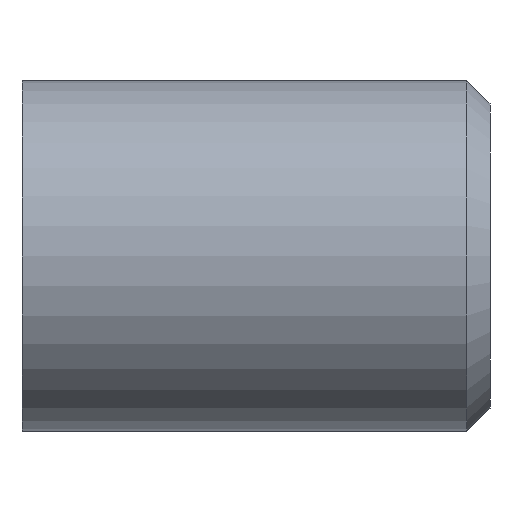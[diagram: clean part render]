
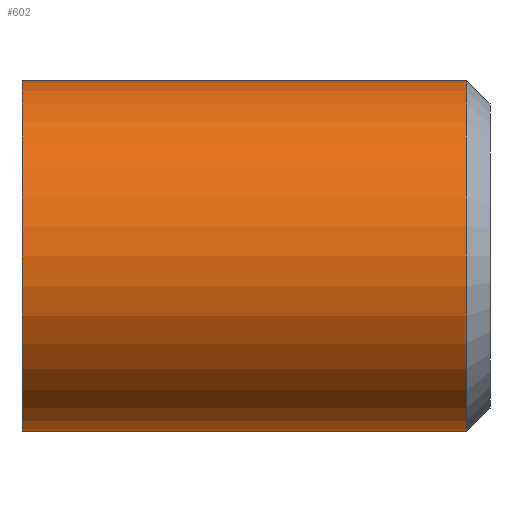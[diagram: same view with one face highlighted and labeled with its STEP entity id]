
A CAD part, front view. The second image highlights one B-rep face of the part: STEP entity #602.
In plain terms, the highlighted cylindrical face has radius 7.5 mm (diameter 15 mm), a partial arc.
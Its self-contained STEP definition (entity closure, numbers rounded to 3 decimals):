
#93 = EDGE_CURVE ( 'NONE', #328, #94, #948, .T. ) ;
#94 = VERTEX_POINT ( 'NONE', #944 ) ;
#96 = VERTEX_POINT ( 'NONE', #943 ) ;
#199 = VERTEX_POINT ( 'NONE', #5123 ) ;
#328 = VERTEX_POINT ( 'NONE', #5831 ) ;
#331 = EDGE_CURVE ( 'NONE', #199, #96, #5830, .T. ) ;
#391 = ORIENTED_EDGE ( 'NONE', *, *, #331, .T. ) ;
#392 = ORIENTED_EDGE ( 'NONE', *, *, #601, .T. ) ;
#462 = EDGE_CURVE ( 'NONE', #328, #199, #10607, .T. ) ;
#601 = EDGE_CURVE ( 'NONE', #96, #94, #10878, .T. ) ;
#602 = ADVANCED_FACE ( 'NONE', ( #10930 ), #10929, .T. ) ;
#603 = EDGE_LOOP ( 'NONE', ( #604, #605, #391, #392 ) ) ;
#604 = ORIENTED_EDGE ( 'NONE', *, *, #93, .F. ) ;
#605 = ORIENTED_EDGE ( 'NONE', *, *, #462, .T. ) ;
#943 = CARTESIAN_POINT ( 'NONE',  ( 9., 0., -7.5 ) ) ;
#944 = CARTESIAN_POINT ( 'NONE',  ( 9., 0., 7.5 ) ) ;
#945 = DIRECTION ( 'NONE',  ( 1., 0., 0. ) ) ;
#946 = VECTOR ( 'NONE', #945, 1000. ) ;
#947 = CARTESIAN_POINT ( 'NONE',  ( -0.5, 0., 7.5 ) ) ;
#948 = LINE ( 'NONE', #947, #946 ) ;
#5123 = CARTESIAN_POINT ( 'NONE',  ( -10., 0., -7.5 ) ) ;
#5823 = DIRECTION ( 'NONE',  ( 1., 0., 0. ) ) ;
#5824 = CARTESIAN_POINT ( 'NONE',  ( -0.5, 0., -7.5 ) ) ;
#5830 = LINE ( 'NONE', #5824, #5878 ) ;
#5831 = CARTESIAN_POINT ( 'NONE',  ( -10., 0., 7.5 ) ) ;
#5878 = VECTOR ( 'NONE', #5823, 1000. ) ;
#10603 = DIRECTION ( 'NONE',  ( 0., 0., -1. ) ) ;
#10604 = DIRECTION ( 'NONE',  ( 1., 0., 0. ) ) ;
#10605 = CARTESIAN_POINT ( 'NONE',  ( -10., 0., 0. ) ) ;
#10606 = AXIS2_PLACEMENT_3D ( 'NONE', #10605, #10604, #10603 ) ;
#10607 = CIRCLE ( 'NONE', #10606, 7.5 ) ;
#10876 = CARTESIAN_POINT ( 'NONE',  ( 9., 0., 0. ) ) ;
#10877 = AXIS2_PLACEMENT_3D ( 'NONE', #10876, #10932, #10931 ) ;
#10878 = CIRCLE ( 'NONE', #10877, 7.5 ) ;
#10925 = DIRECTION ( 'NONE',  ( 0., 0., -1. ) ) ;
#10926 = DIRECTION ( 'NONE',  ( 1., 0., 0. ) ) ;
#10927 = CARTESIAN_POINT ( 'NONE',  ( -0.5, 0., 0. ) ) ;
#10928 = AXIS2_PLACEMENT_3D ( 'NONE', #10927, #10926, #10925 ) ;
#10929 = CYLINDRICAL_SURFACE ( 'NONE', #10928, 7.5 ) ;
#10930 = FACE_OUTER_BOUND ( 'NONE', #603, .T. ) ;
#10931 = DIRECTION ( 'NONE',  ( 0., 0., -1. ) ) ;
#10932 = DIRECTION ( 'NONE',  ( -1., 0., 0. ) ) ;
